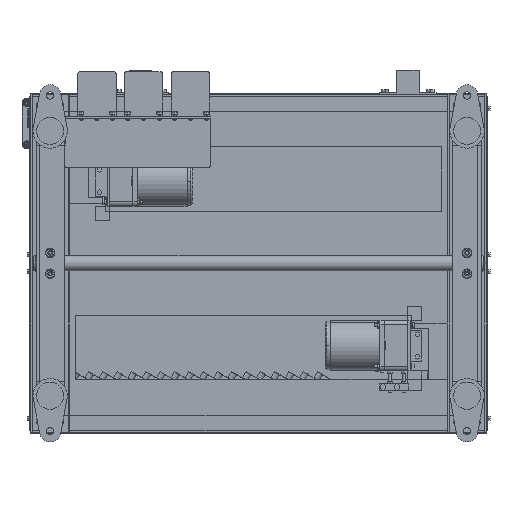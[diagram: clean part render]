
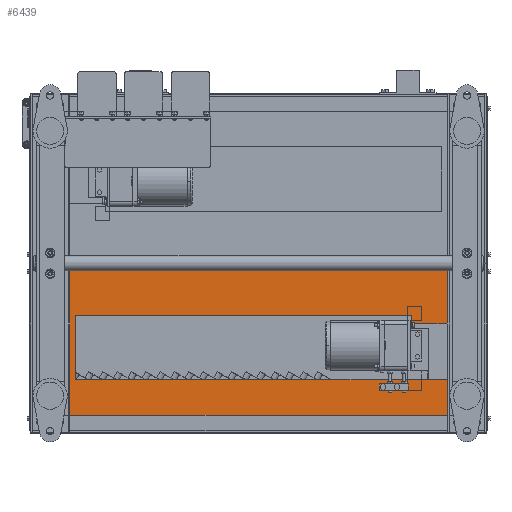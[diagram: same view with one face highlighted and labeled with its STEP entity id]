
A CAD part, front view. The second image highlights one B-rep face of the part: STEP entity #6439.
In plain terms, the highlighted planar face has unit normal (0, -1, 0).
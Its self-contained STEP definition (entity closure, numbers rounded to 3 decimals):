
#6439=ADVANCED_FACE('',(#37751,#37752),#37750,.F.);
#37750=PLANE('',#58327);
#37751=FACE_OUTER_BOUND('',#58328,.T.);
#37752=FACE_BOUND('',#58329,.T.);
#58324=CARTESIAN_POINT('',(817.,-93.,-307.));
#58325=DIRECTION('',(0.,1.,0.));
#58326=DIRECTION('',(-1.,0.,0.));
#58327=AXIS2_PLACEMENT_3D('',#58324,#58325,#58326);
#58328=EDGE_LOOP('',(#74224,#74225,#74226,#74227));
#58329=EDGE_LOOP('',(#74228,#74229,#74230,#74231,#74232,#74233));
#74224=ORIENTED_EDGE('',*,*,#82781,.T.);
#74225=ORIENTED_EDGE('',*,*,#82782,.F.);
#74226=ORIENTED_EDGE('',*,*,#82783,.F.);
#74227=ORIENTED_EDGE('',*,*,#82784,.T.);
#74228=ORIENTED_EDGE('',*,*,#82769,.T.);
#74229=ORIENTED_EDGE('',*,*,#82772,.T.);
#74230=ORIENTED_EDGE('',*,*,#82775,.T.);
#74231=ORIENTED_EDGE('',*,*,#82778,.T.);
#74232=ORIENTED_EDGE('',*,*,#82780,.T.);
#74233=ORIENTED_EDGE('',*,*,#82766,.T.);
#82766=EDGE_CURVE('',#133117,#133131,#133138,.T.);
#82769=EDGE_CURVE('',#133131,#133151,#133158,.T.);
#82772=EDGE_CURVE('',#133151,#133171,#133178,.T.);
#82775=EDGE_CURVE('',#133171,#133191,#133198,.T.);
#82778=EDGE_CURVE('',#133191,#133211,#133218,.T.);
#82780=EDGE_CURVE('',#133211,#133117,#133230,.T.);
#82781=EDGE_CURVE('',#133236,#133237,#133238,.T.);
#82782=EDGE_CURVE('',#133244,#133237,#133245,.T.);
#82783=EDGE_CURVE('',#133251,#133244,#133252,.T.);
#82784=EDGE_CURVE('',#133251,#133236,#133258,.T.);
#133117=VERTEX_POINT('',#166973);
#133131=VERTEX_POINT('',#166981);
#133138=LINE('',#166985,#166986);
#133151=VERTEX_POINT('',#166992);
#133158=LINE('',#166996,#166997);
#133171=VERTEX_POINT('',#167003);
#133178=LINE('',#167007,#167008);
#133191=VERTEX_POINT('',#167014);
#133198=LINE('',#167018,#167019);
#133211=VERTEX_POINT('',#167025);
#133218=LINE('',#167029,#167030);
#133230=LINE('',#167035,#167036);
#133236=VERTEX_POINT('',#167038);
#133237=VERTEX_POINT('',#167039);
#133238=LINE('',#167040,#167041);
#133244=VERTEX_POINT('',#167043);
#133245=LINE('',#167044,#167045);
#133251=VERTEX_POINT('',#167047);
#133252=LINE('',#167048,#167049);
#133258=LINE('',#167051,#167052);
#166973=CARTESIAN_POINT('',(80.,-93.,-92.));
#166981=CARTESIAN_POINT('',(677.,-93.,-92.));
#166985=CARTESIAN_POINT('',(80.,-93.,-92.));
#166986=VECTOR('',#166987,597.);
#166987=DIRECTION('',(1.,0.,0.));
#166992=CARTESIAN_POINT('',(677.,-93.,-107.));
#166996=CARTESIAN_POINT('',(677.,-93.,-92.));
#166997=VECTOR('',#166998,15.);
#166998=DIRECTION('',(0.,0.,-1.));
#167003=CARTESIAN_POINT('',(770.,-93.,-107.));
#167007=CARTESIAN_POINT('',(677.,-93.,-107.));
#167008=VECTOR('',#167009,93.);
#167009=DIRECTION('',(1.,0.,0.));
#167014=CARTESIAN_POINT('',(770.,-93.,-207.));
#167018=CARTESIAN_POINT('',(770.,-93.,-107.));
#167019=VECTOR('',#167020,100.);
#167020=DIRECTION('',(0.,0.,-1.));
#167025=CARTESIAN_POINT('',(80.,-93.,-207.));
#167029=CARTESIAN_POINT('',(770.,-93.,-207.));
#167030=VECTOR('',#167031,690.);
#167031=DIRECTION('',(-1.,0.,0.));
#167035=CARTESIAN_POINT('',(80.,-93.,-207.));
#167036=VECTOR('',#167037,115.);
#167037=DIRECTION('',(0.,0.,1.));
#167038=CARTESIAN_POINT('',(807.,-93.,-1.5));
#167039=CARTESIAN_POINT('',(3.,-93.,-1.5));
#167040=CARTESIAN_POINT('',(807.,-93.,-1.5));
#167041=VECTOR('',#167042,804.);
#167042=DIRECTION('',(-1.,0.,0.));
#167043=CARTESIAN_POINT('',(3.,-93.,-297.));
#167044=CARTESIAN_POINT('',(3.,-93.,-297.));
#167045=VECTOR('',#167046,295.5);
#167046=DIRECTION('',(0.,0.,1.));
#167047=CARTESIAN_POINT('',(807.,-93.,-297.));
#167048=CARTESIAN_POINT('',(807.,-93.,-297.));
#167049=VECTOR('',#167050,804.);
#167050=DIRECTION('',(-1.,0.,0.));
#167051=CARTESIAN_POINT('',(807.,-93.,-297.));
#167052=VECTOR('',#167053,295.5);
#167053=DIRECTION('',(0.,0.,1.));
